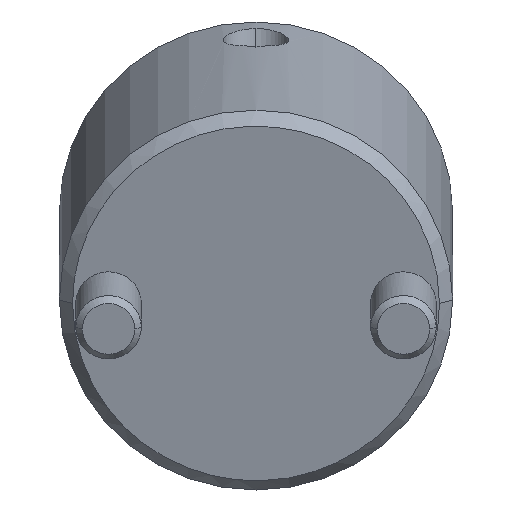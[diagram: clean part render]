
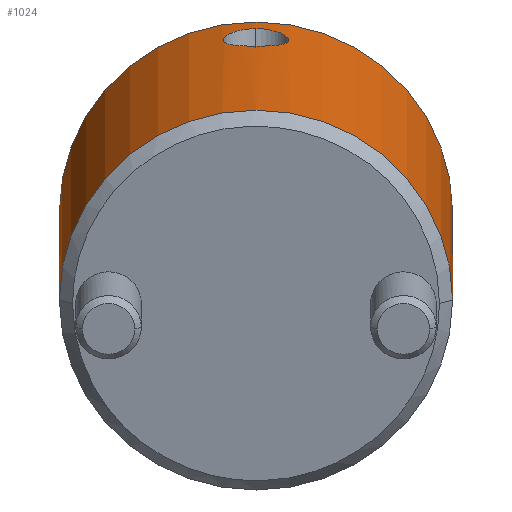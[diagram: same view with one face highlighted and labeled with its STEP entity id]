
A CAD part, front view. The second image highlights one B-rep face of the part: STEP entity #1024.
In plain terms, the highlighted cylindrical face has radius 15 mm (diameter 30 mm), a partial arc.
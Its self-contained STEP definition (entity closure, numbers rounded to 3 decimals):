
#790=CARTESIAN_POINT('Vertex',(0.,15.,1.)) ;
#793=CARTESIAN_POINT('Axis2P3D Location',(0.,0.,1.)) ;
#797=CARTESIAN_POINT('Vertex',(0.,-15.,1.)) ;
#937=CARTESIAN_POINT('Axis2P3D Location',(0.,0.,-1.4)) ;
#942=CARTESIAN_POINT('Line Origine',(0.,15.,-1.4)) ;
#946=CARTESIAN_POINT('Vertex',(0.,15.,27.)) ;
#949=CARTESIAN_POINT('Axis2P3D Location',(0.,0.,27.)) ;
#953=CARTESIAN_POINT('Vertex',(0.,-15.,27.)) ;
#956=CARTESIAN_POINT('Line Origine',(0.,-15.,-1.4)) ;
#968=CARTESIAN_POINT('Control Point',(15.,0.,25.059)) ;
#969=CARTESIAN_POINT('Control Point',(15.,0.222,25.059)) ;
#970=CARTESIAN_POINT('Control Point',(14.996,0.441,25.033)) ;
#971=CARTESIAN_POINT('Control Point',(14.988,0.664,24.978)) ;
#972=CARTESIAN_POINT('Control Point',(14.963,1.097,24.816)) ;
#973=CARTESIAN_POINT('Control Point',(14.929,1.474,24.561)) ;
#974=CARTESIAN_POINT('Control Point',(14.91,1.652,24.41)) ;
#975=CARTESIAN_POINT('Control Point',(14.878,1.921,24.124)) ;
#976=CARTESIAN_POINT('Control Point',(14.848,2.135,23.79)) ;
#977=CARTESIAN_POINT('Control Point',(14.836,2.213,23.647)) ;
#978=CARTESIAN_POINT('Control Point',(14.816,2.345,23.354)) ;
#979=CARTESIAN_POINT('Control Point',(14.801,2.433,23.043)) ;
#980=CARTESIAN_POINT('Control Point',(14.796,2.465,22.887)) ;
#981=CARTESIAN_POINT('Control Point',(14.784,2.538,22.331)) ;
#982=CARTESIAN_POINT('Control Point',(14.795,2.468,21.774)) ;
#983=CARTESIAN_POINT('Control Point',(14.817,2.344,21.395)) ;
#984=CARTESIAN_POINT('Control Point',(14.865,2.036,20.848)) ;
#985=CARTESIAN_POINT('Control Point',(14.917,1.588,20.428)) ;
#986=CARTESIAN_POINT('Control Point',(14.936,1.4,20.29)) ;
#987=CARTESIAN_POINT('Control Point',(14.968,1.025,20.073)) ;
#988=CARTESIAN_POINT('Control Point',(14.99,0.603,19.943)) ;
#989=CARTESIAN_POINT('Control Point',(14.997,0.4,19.901)) ;
#990=CARTESIAN_POINT('Control Point',(15.,0.2,19.882)) ;
#991=CARTESIAN_POINT('Control Point',(15.,0.,19.882)) ;
#992=CARTESIAN_POINT('Vertex',(15.,0.,25.059)) ;
#994=CARTESIAN_POINT('Vertex',(15.,0.,19.882)) ;
#998=CARTESIAN_POINT('Control Point',(15.,0.,19.882)) ;
#999=CARTESIAN_POINT('Control Point',(15.,-0.15,19.882)) ;
#1000=CARTESIAN_POINT('Control Point',(14.998,-0.301,19.893)) ;
#1001=CARTESIAN_POINT('Control Point',(14.994,-0.451,19.916)) ;
#1002=CARTESIAN_POINT('Control Point',(14.983,-0.753,19.986)) ;
#1003=CARTESIAN_POINT('Control Point',(14.965,-1.042,20.1)) ;
#1004=CARTESIAN_POINT('Control Point',(14.955,-1.178,20.167)) ;
#1005=CARTESIAN_POINT('Control Point',(14.909,-1.705,20.479)) ;
#1006=CARTESIAN_POINT('Control Point',(14.853,-2.123,20.942)) ;
#1007=CARTESIAN_POINT('Control Point',(14.815,-2.352,21.362)) ;
#1008=CARTESIAN_POINT('Control Point',(14.772,-2.605,22.299)) ;
#1009=CARTESIAN_POINT('Control Point',(14.802,-2.429,23.275)) ;
#1010=CARTESIAN_POINT('Control Point',(14.837,-2.229,23.737)) ;
#1011=CARTESIAN_POINT('Control Point',(14.891,-1.852,24.258)) ;
#1012=CARTESIAN_POINT('Control Point',(14.939,-1.36,24.633)) ;
#1013=CARTESIAN_POINT('Control Point',(14.95,-1.233,24.717)) ;
#1014=CARTESIAN_POINT('Control Point',(14.974,-0.926,24.884)) ;
#1015=CARTESIAN_POINT('Control Point',(14.99,-0.587,24.995)) ;
#1016=CARTESIAN_POINT('Control Point',(14.997,-0.391,25.039)) ;
#1017=CARTESIAN_POINT('Control Point',(15.,-0.196,25.059)) ;
#1018=CARTESIAN_POINT('Control Point',(15.,0.,25.059)) ;
#794=DIRECTION('Axis2P3D Direction',(0.,0.,1.)) ;
#938=DIRECTION('Axis2P3D Direction',(0.,-0.,1.)) ;
#939=DIRECTION('Axis2P3D XDirection',(0.,-1.,0.)) ;
#943=DIRECTION('Vector Direction',(0.,0.,1.)) ;
#950=DIRECTION('Axis2P3D Direction',(0.,-0.,1.)) ;
#957=DIRECTION('Vector Direction',(0.,0.,1.)) ;
#795=AXIS2_PLACEMENT_3D('Circle Axis2P3D',#793,#794,$) ;
#940=AXIS2_PLACEMENT_3D('Cylinder Axis2P3D',#937,#938,#939) ;
#951=AXIS2_PLACEMENT_3D('Circle Axis2P3D',#949,#950,$) ;
#962=ORIENTED_EDGE('',*,*,#948,.F.) ;
#963=ORIENTED_EDGE('',*,*,#955,.T.) ;
#964=ORIENTED_EDGE('',*,*,#960,.T.) ;
#965=ORIENTED_EDGE('',*,*,#799,.F.) ;
#1021=ORIENTED_EDGE('',*,*,#996,.T.) ;
#1022=ORIENTED_EDGE('',*,*,#1019,.T.) ;
#1023=FACE_BOUND('',#1020,.T.) ;
#944=VECTOR('Line Direction',#943,1.) ;
#958=VECTOR('Line Direction',#957,1.) ;
#1024=ADVANCED_FACE('MANIFOLD_SOLID_BREP #1106',(#966,#1023),#941,.T.) ;
#967=B_SPLINE_CURVE_WITH_KNOTS('',5,(#968,#969,#970,#971,#972,#973,#974,#975,#976,#977,#978,#979,#980,#981,#982,#983,#984,#985,#986,#987,#988,#989,#990,#991),.UNSPECIFIED.,.F.,.U.,(6,3,3,3,3,3,3,6),(0.,1.607,3.272,4.392,5.5,8.246,9.875,11.325),.UNSPECIFIED.) ;
#997=B_SPLINE_CURVE_WITH_KNOTS('',5,(#998,#999,#1000,#1001,#1002,#1003,#1004,#1005,#1006,#1007,#1008,#1009,#1010,#1011,#1012,#1013,#1014,#1015,#1016,#1017,#1018),.UNSPECIFIED.,.F.,.U.,(6,3,3,3,3,3,6),(0.,1.097,2.19,5.49,8.837,9.921,11.335),.UNSPECIFIED.) ;
#796=CIRCLE('generated circle',#795,15.) ;
#952=CIRCLE('generated circle',#951,15.) ;
#941=CYLINDRICAL_SURFACE('generated cylinder',#940,15.) ;
#799=EDGE_CURVE('',#791,#798,#796,.F.) ;
#948=EDGE_CURVE('',#947,#791,#945,.F.) ;
#955=EDGE_CURVE('',#947,#954,#952,.F.) ;
#960=EDGE_CURVE('',#954,#798,#959,.F.) ;
#996=EDGE_CURVE('',#993,#995,#967,.T.) ;
#1019=EDGE_CURVE('',#995,#993,#997,.T.) ;
#961=EDGE_LOOP('',(#962,#963,#964,#965)) ;
#1020=EDGE_LOOP('',(#1021,#1022)) ;
#966=FACE_OUTER_BOUND('',#961,.T.) ;
#945=LINE('Line',#942,#944) ;
#959=LINE('Line',#956,#958) ;
#791=VERTEX_POINT('',#790) ;
#798=VERTEX_POINT('',#797) ;
#947=VERTEX_POINT('',#946) ;
#954=VERTEX_POINT('',#953) ;
#993=VERTEX_POINT('',#992) ;
#995=VERTEX_POINT('',#994) ;
